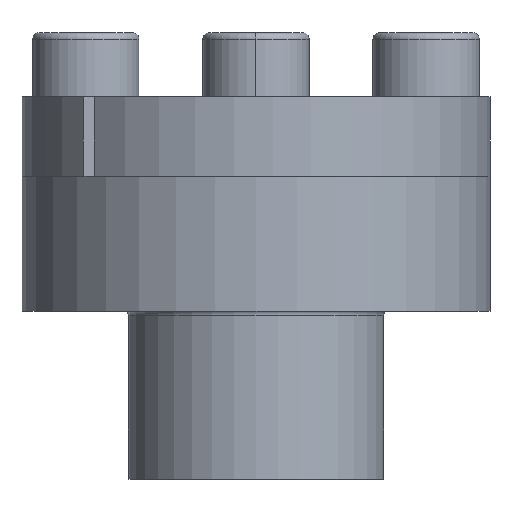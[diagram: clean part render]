
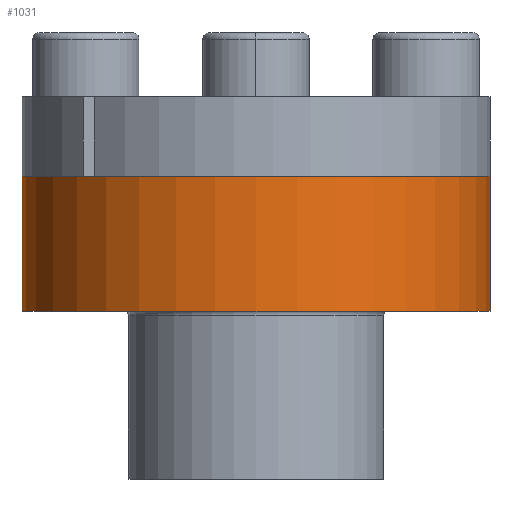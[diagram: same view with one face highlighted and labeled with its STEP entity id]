
A CAD part, front view. The second image highlights one B-rep face of the part: STEP entity #1031.
In plain terms, the highlighted cylindrical face has radius 22 mm (diameter 44 mm), a partial arc.
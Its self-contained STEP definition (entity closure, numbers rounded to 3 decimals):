
#112 = EDGE_CURVE ( 'NONE', #6486, #7312, #3533, .T. ) ;
#352 = CARTESIAN_POINT ( 'NONE',  ( 0., 0., 3.477 ) ) ;
#467 = VECTOR ( 'NONE', #2847, 1000. ) ;
#529 = CARTESIAN_POINT ( 'NONE',  ( 22., 0., -9.223 ) ) ;
#659 = ORIENTED_EDGE ( 'NONE', *, *, #3554, .F. ) ;
#778 = LINE ( 'NONE', #4231, #6708 ) ;
#1031 = ADVANCED_FACE ( 'NONE', ( #5901 ), #6699, .T. ) ;
#1159 = CARTESIAN_POINT ( 'NONE',  ( 22., 0., 3.477 ) ) ;
#1257 = VERTEX_POINT ( 'NONE', #529 ) ;
#1359 = CIRCLE ( 'NONE', #6509, 22. ) ;
#1478 = DIRECTION ( 'NONE',  ( 0., 0., 1. ) ) ;
#1498 = EDGE_CURVE ( 'NONE', #7312, #1257, #6736, .T. ) ;
#1639 = EDGE_CURVE ( 'NONE', #6486, #3231, #1359, .T. ) ;
#1972 = DIRECTION ( 'NONE',  ( 0., 0., -1. ) ) ;
#2105 = AXIS2_PLACEMENT_3D ( 'NONE', #352, #5538, #4452 ) ;
#2284 = DIRECTION ( 'NONE',  ( 0., 0., 1. ) ) ;
#2847 = DIRECTION ( 'NONE',  ( 0., 0., -1. ) ) ;
#2951 = CARTESIAN_POINT ( 'NONE',  ( -22., 0., 3.477 ) ) ;
#3231 = VERTEX_POINT ( 'NONE', #1159 ) ;
#3525 = CARTESIAN_POINT ( 'NONE',  ( -22., 0., -9.223 ) ) ;
#3533 = LINE ( 'NONE', #2951, #467 ) ;
#3554 = EDGE_CURVE ( 'NONE', #3231, #1257, #778, .T. ) ;
#3969 = AXIS2_PLACEMENT_3D ( 'NONE', #4880, #1478, #5463 ) ;
#4112 = CARTESIAN_POINT ( 'NONE',  ( -22., 0., 3.477 ) ) ;
#4231 = CARTESIAN_POINT ( 'NONE',  ( 22., 0., 3.477 ) ) ;
#4238 = ORIENTED_EDGE ( 'NONE', *, *, #112, .T. ) ;
#4452 = DIRECTION ( 'NONE',  ( -1., 0., 0. ) ) ;
#4556 = ORIENTED_EDGE ( 'NONE', *, *, #1639, .F. ) ;
#4612 = ORIENTED_EDGE ( 'NONE', *, *, #1498, .T. ) ;
#4824 = EDGE_LOOP ( 'NONE', ( #659, #4556, #4238, #4612 ) ) ;
#4880 = CARTESIAN_POINT ( 'NONE',  ( 0., 0., -9.223 ) ) ;
#5463 = DIRECTION ( 'NONE',  ( 1., 0., 0. ) ) ;
#5538 = DIRECTION ( 'NONE',  ( 0., 0., -1. ) ) ;
#5694 = CARTESIAN_POINT ( 'NONE',  ( 0., 0., 3.477 ) ) ;
#5901 = FACE_OUTER_BOUND ( 'NONE', #4824, .T. ) ;
#6281 = DIRECTION ( 'NONE',  ( 1., 0., 0. ) ) ;
#6486 = VERTEX_POINT ( 'NONE', #4112 ) ;
#6509 = AXIS2_PLACEMENT_3D ( 'NONE', #5694, #2284, #6281 ) ;
#6699 = CYLINDRICAL_SURFACE ( 'NONE', #2105, 22. ) ;
#6708 = VECTOR ( 'NONE', #1972, 1000. ) ;
#6736 = CIRCLE ( 'NONE', #3969, 22. ) ;
#7312 = VERTEX_POINT ( 'NONE', #3525 ) ;
